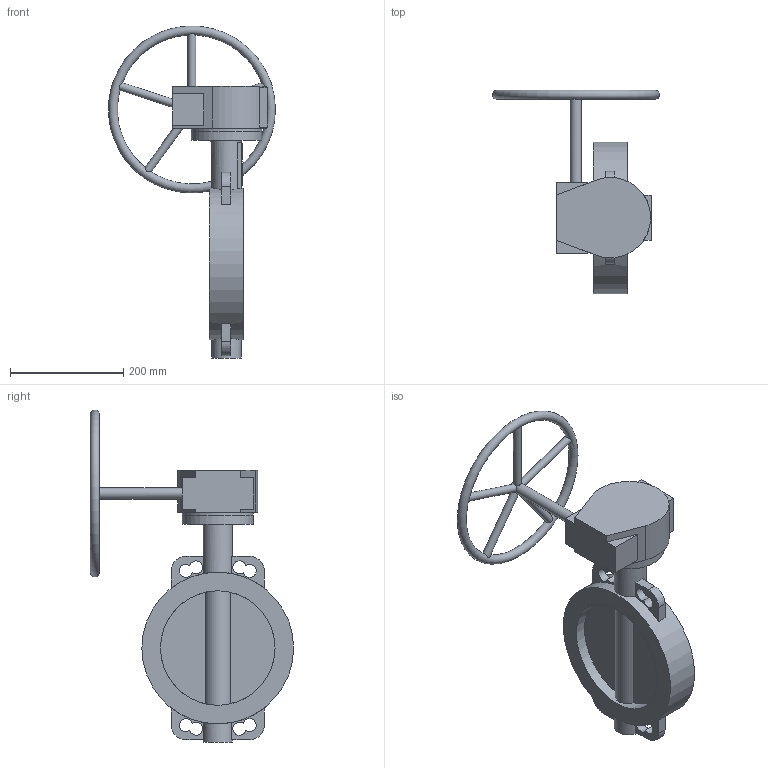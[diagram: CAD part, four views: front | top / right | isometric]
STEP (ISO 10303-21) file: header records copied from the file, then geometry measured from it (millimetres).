
FILE_DESCRIPTION(('STEP AP203'), '1');
FILE_NAME('青蜮铕 017W.ZS DN200 PN10_16 疱潴牝铕', '', ('UNSPECIFIED'), ('UNSPECIFIED'), 'ASCON STEP Converter 1.6', 'ASCON Math Kernel', '');
FILE_SCHEMA(('CONFIG_CONTROL_DESIGN'));
Length unit declared in the file: millimetre
Bounding box: 294.67 x 359 x 586.5 mm (x, y, z)
Volume: 1845416 mm3; surface area: 434036.5 mm2
Topology: 1 solids, 4 shells, 816 faces, 2417 edges, 1556 vertices
Faces by surface type: cylinder 620, plane 195, torus 1
Full cylindrical faces by diameter (mm): 8.5 x4, 12 x4, 14 x5, 20 x2, 22.1 x1, 52 x2, 70 x1, 125 x2, 202.4 x2, 268 x1
Entity records: 36798 total; most frequent: CARTESIAN_POINT 7325, DIRECTION 5288, ORIENTED_EDGE 4706, EDGE_CURVE 2392, AXIS2_PLACEMENT_3D 2120, VERTEX_POINT 1555, CIRCLE 1304, LINE 1048
